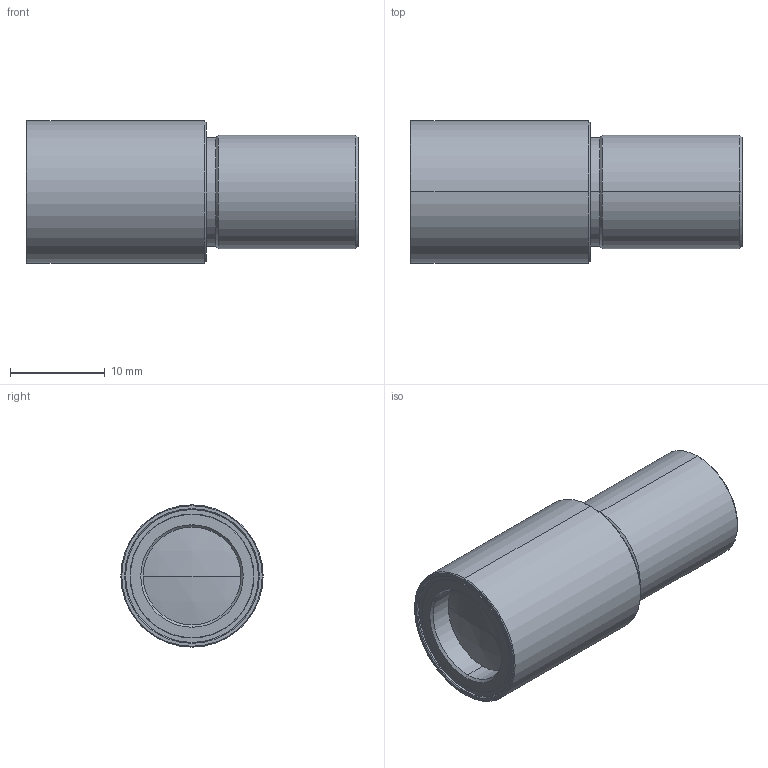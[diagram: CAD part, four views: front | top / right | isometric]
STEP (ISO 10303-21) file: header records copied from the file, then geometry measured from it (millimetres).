
FILE_DESCRIPTION (( 'STEP AP203' ), '1' );
FILE_NAME ('VS-MTC069-15.STEP', '2020-07-27T23:34:54', ( '' ), ( '' ), 'SwSTEP 2.0', 'SolidWorks 2018', '' );
FILE_SCHEMA (( 'CONFIG_CONTROL_DESIGN' ));
Length unit declared in the file: millimetre
Products named in the file (1): VS-MTC069-15
Bounding box: 35 x 15 x 15 mm (x, y, z)
Volume: 4866.4 mm3; surface area: 1968.7 mm2
Topology: 1 solids, 1 shells, 47 faces, 96 edges, 58 vertices
Faces by surface type: cone 22, cylinder 14, plane 7, sphere 4
Entity records: 1323 total; most frequent: DIRECTION 252, CARTESIAN_POINT 202, ORIENTED_EDGE 192, AXIS2_PLACEMENT_3D 108, EDGE_CURVE 96, CIRCLE 60, VERTEX_POINT 58, EDGE_LOOP 54
